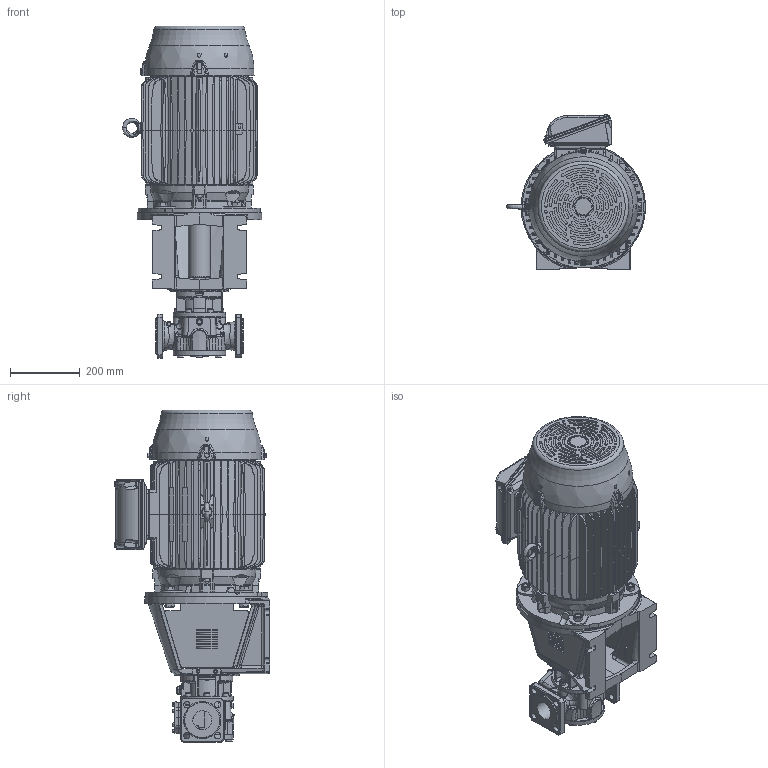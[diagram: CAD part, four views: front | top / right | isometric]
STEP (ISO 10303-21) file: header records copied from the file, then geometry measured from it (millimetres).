
FILE_DESCRIPTION(/* description */ (''),/* implementation_level */ '2;1');
FILE_NAME(/* name */ 'C:\V\JPP\Designs\GEAR PUMPS\PRODUCT ENGINEERING\EUROPE\TG BLOC\TG BLOC_15-50_G2_O_NRV-_160L-STEP.stp',/* time_stamp */ '2021-03-17T08:52:39+01:00',/* author */ ('A77THR'),/* organization */ (''),/* preprocessor_version */ 'ST-DEVELOPER v18.1',/* originating_system */ 'Autodesk Inventor 2020',/* authorisation */ '');
FILE_SCHEMA (('AUTOMOTIVE_DESIGN { 1 0 10303 214 3 1 1 }'));
Length unit declared in the file: millimetre
Products named in the file (1): TG BLOC_15-50_G2_O_NRV-_160L
Bounding box: 397.99 x 444.6 x 949.4 mm (x, y, z)
Volume: 46292764.2 mm3; surface area: 2386798.7 mm2
Topology: 1 solids, 1 shells, 4593 faces, 12077 edges, 7644 vertices
Faces by surface type: plane 1849, cylinder 1043, bspline 1001, cone 514, torus 150, sphere 36
Full cylindrical faces by diameter (mm): 4 x1, 4.5 x8, 4.917 x8, 5 x1, 5.459 x8, 6 x8, 6.647 x1, 7 x12, 7.5 x3, 8 x13, 8.376 x5, 8.5 x2, 8.7 x8, 9.188 x4, 9.4 x1, 10 x12, 10.5 x1, 11.445 x2, 11.5 x4, 11.6 x7, 12 x4, 12.5 x3, 13 x4, 14 x1, 15.011 x3, 15.4 x10, 16 x6, 17.9 x3, 18 x11, 19 x3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
Entity records: 193991 total; most frequent: CARTESIAN_POINT 83442, ORIENTED_EDGE 23974, DIRECTION 20126, EDGE_CURVE 11987, AXIS2_PLACEMENT_3D 7758, VERTEX_POINT 7644, EDGE_LOOP 4977, LINE 4610
